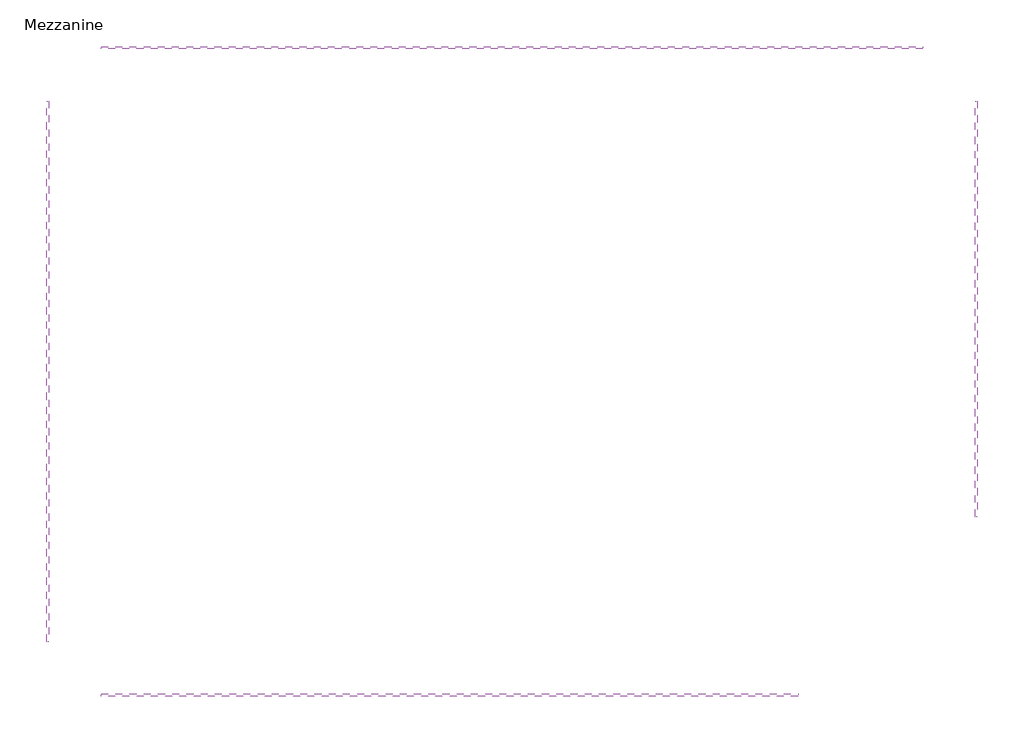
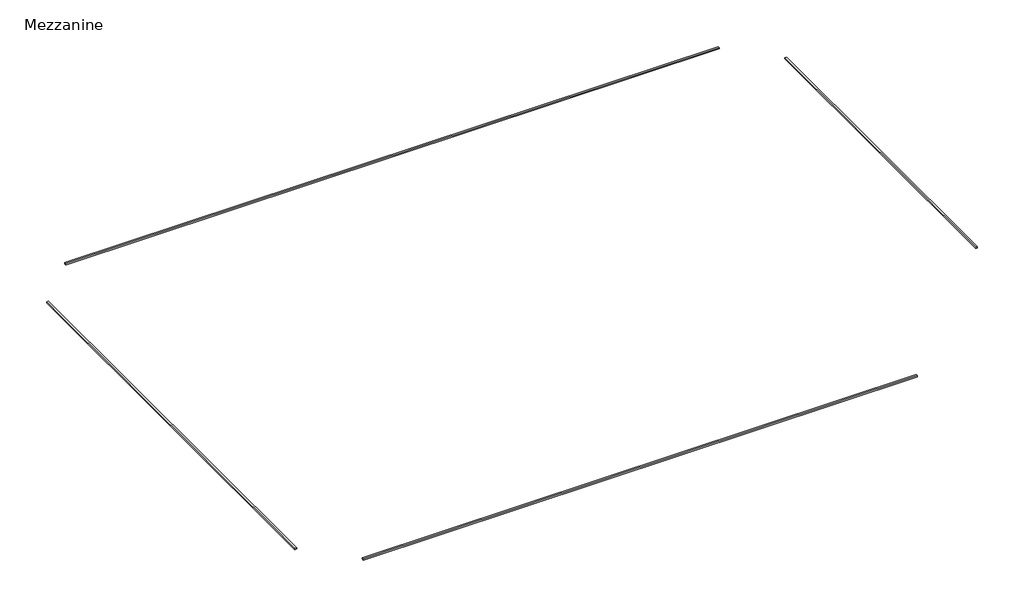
# One storey: 4 proxies.
"""IFC4 building model written with IfcOpenShell, lengths in millimetres."""

import ifcopenshell
import ifcopenshell.guid

model = None  # the IFC model being written
_history = None  # IfcOwnerHistory: only IFC2X3 demands one
_inside = {}  # id of a spatial element -> (the spatial element, [elements in it])
_under = {}  # id of a project, library or spatial element -> (it, [spatial elements below it])
_declared = {}  # id of a project -> (the project, [libraries it declares])
_typed = {}  # id of a type object -> (the type object, [elements of that type])
_made_of = {}  # id of a material, layer set ... -> (it, [elements and type objects made of it])


def new_model(schema):
    """Start an empty IFC model of exactly this schema.

    Asked for "IFC4X3", IfcOpenShell would pick the latest addendum, in which some entities
    have other attributes; the version numbers below select the first issue.
    IFC2X3 requires an IfcOwnerHistory on every rooted entity: one is made here for all.
    """
    global model, _history
    if schema == "IFC4X3":
        model = ifcopenshell.file(schema_version=(4, 3, 0, 0))
    else:
        model = ifcopenshell.file(schema=schema)
    _inside.clear()
    _under.clear()
    _declared.clear()
    _typed.clear()
    _made_of.clear()
    _history = None
    if model.schema == "IFC2X3":
        org = make("IfcOrganization", Name="unknown")
        user = make(
            "IfcPersonAndOrganization",
            ThePerson=make("IfcPerson", FamilyName="unknown"),
            TheOrganization=org,
        )
        app = make(
            "IfcApplication",
            ApplicationDeveloper=org,
            Version="unknown",
            ApplicationFullName="unknown",
            ApplicationIdentifier="unknown",
        )
        _history = make(
            "IfcOwnerHistory",
            OwningUser=user,
            OwningApplication=app,
            ChangeAction="ADDED",
            CreationDate=0,
        )
    return model


def make(cls, **values):
    """One entity of the class cls with the attributes given. An attribute that is None is left unset."""
    return model.create_entity(
        cls, **{name: value for name, value in values.items() if value is not None}
    )


def rooted(cls, **values):
    """An entity with a GlobalId (a new one), such as an element, a storey or a relation."""
    return make(cls, GlobalId=ifcopenshell.guid.new(), OwnerHistory=_history, **values)


def si_unit(unit_type, name, prefix=None):
    """IfcSIUnit, for example si_unit("LENGTHUNIT", "METRE", prefix="MILLI")."""
    return make("IfcSIUnit", UnitType=unit_type, Prefix=prefix, Name=name)


def assignment(units):
    """IfcUnitAssignment: the units of a project."""
    return None if units is None else make("IfcUnitAssignment", Units=units)


def point(xyz):
    """IfcCartesianPoint."""
    return None if xyz is None else make("IfcCartesianPoint", Coordinates=xyz)


def direction(xyz):
    """IfcDirection."""
    return None if xyz is None else make("IfcDirection", DirectionRatios=xyz)


def frame(location, z_axis=None, x_axis=None):
    """IfcAxis2Placement3D, a coordinate frame: its origin and axes. An axis left out is left unset."""
    return make(
        "IfcAxis2Placement3D",
        Location=point(location),
        Axis=direction(z_axis),
        RefDirection=direction(x_axis),
    )


def origin():
    """The frame at (0, 0, 0) with its axes left unset."""
    return frame((0.0, 0.0, 0.0))


def place(relative_to, where):
    """IfcLocalPlacement: puts the frame where relative to a parent placement (None: the world)."""
    return make(
        "IfcLocalPlacement", PlacementRelTo=relative_to, RelativePlacement=where
    )


def context(
    kind, dimensions, precision=None, world=None, true_north=None, identifier=None
):
    """IfcGeometricRepresentationContext, for example the 3D "Model" context."""
    return make(
        "IfcGeometricRepresentationContext",
        ContextIdentifier=identifier,
        ContextType=kind,
        CoordinateSpaceDimension=dimensions,
        Precision=precision,
        WorldCoordinateSystem=world,
        TrueNorth=true_north,
    )


def project(units=None, contexts=None):
    """IfcProject with its units and contexts."""
    return rooted(
        "IfcProject",
        Name="project",
        RepresentationContexts=contexts,
        UnitsInContext=assignment(units),
    )


def spatial(cls, under=None, at=None, **own):
    """A site, building, storey or space (cls), placed at a placement, below another one or the project."""
    s = rooted(cls, ObjectPlacement=at, **own)
    if under is not None:
        _under.setdefault(under.id(), (under, []))[1].append(s)
    return s


def polyline(points):
    """IfcPolyline through the points."""
    return make("IfcPolyline", Points=[point(p) for p in points])


def outline(outer, holes=None, kind="AREA"):
    """IfcArbitraryClosedProfileDef: a profile drawn as a closed curve; with holes, ...WithVoids."""
    if holes is None:
        return make("IfcArbitraryClosedProfileDef", ProfileType=kind, OuterCurve=outer)
    return make(
        "IfcArbitraryProfileDefWithVoids",
        ProfileType=kind,
        OuterCurve=outer,
        InnerCurves=holes,
    )


def extrude(swept, where, along, depth):
    """IfcExtrudedAreaSolid: the profile swept, set in the frame where, extruded along a direction by depth."""
    return make(
        "IfcExtrudedAreaSolid",
        SweptArea=swept,
        Position=where,
        ExtrudedDirection=direction(along),
        Depth=depth,
    )


def shape(context_of_items, identifier, shape_type, items):
    """IfcShapeRepresentation: the items that make up one representation, for example the "Body"."""
    return make(
        "IfcShapeRepresentation",
        ContextOfItems=context_of_items,
        RepresentationIdentifier=identifier,
        RepresentationType=shape_type,
        Items=items,
    )


def made_of(thing, what):
    """Note that an element or type object is made of a material, layer set ...; save() writes the relation."""
    if what is not None:
        _made_of.setdefault(what.id(), (what, []))[1].append(thing)
    return thing


def element(
    cls,
    number,
    at=None,
    inside=None,
    cuts=None,
    type_object=None,
    material=None,
    context=None,
    identifier="Body",
    shape_type=None,
    held_by="IfcProductDefinitionShape",
    body=None,
    shapes=None,
    **own,
):
    """One element of the class cls, such as IfcWall. Its Tag is "e" and its number.

    at: its placement. inside: the storey or other place that contains it. cuts: it is an
    opening in that element (IfcRelVoidsElement). A single representation is given by context,
    identifier, shape_type and body (its items); several are given by shapes. held_by: the class
    of the entity that holds the representations. save() writes the other relations.
    """
    e = rooted(cls, Tag="e%d" % number, ObjectPlacement=at, **own)
    if body is not None:
        shapes = [shape(context, identifier, shape_type, body)]
    if shapes is not None:
        e.Representation = make(held_by, Representations=shapes)
    if inside is not None:
        _inside.setdefault(inside.id(), (inside, []))[1].append(e)
    if cuts is not None:
        rooted(
            "IfcRelVoidsElement", RelatingBuildingElement=cuts, RelatedOpeningElement=e
        )
    if type_object is not None:
        _typed.setdefault(type_object.id(), (type_object, []))[1].append(e)
    return made_of(e, material)


def aggregate(whole, parts):
    """IfcRelAggregates: a whole, such as a stair, and the parts it consists of."""
    return rooted("IfcRelAggregates", RelatingObject=whole, RelatedObjects=parts)


def save(model, path):
    """Write the relations noted so far, then the file.

    IfcRelAggregates (storeys below a building ...), IfcRelContainedInSpatialStructure (elements
    in a storey), IfcRelDefinesByType, IfcRelAssociatesMaterial and IfcRelDeclares: one each for
    every whole, place, type object, material and project.
    """
    for whole, parts in _under.values():
        aggregate(whole, parts)
    for where, things in _inside.values():
        rooted(
            "IfcRelContainedInSpatialStructure",
            RelatedElements=things,
            RelatingStructure=where,
        )
    for kind, things in _typed.values():
        rooted("IfcRelDefinesByType", RelatedObjects=things, RelatingType=kind)
    for what, things in _made_of.values():
        rooted("IfcRelAssociatesMaterial", RelatedObjects=things, RelatingMaterial=what)
    for by, libraries in _declared.values():
        rooted("IfcRelDeclares", RelatingContext=by, RelatedDefinitions=libraries)
    model.write(path)


model = new_model("IFC4")

# Units and contexts
model_context = context("Model", 3, world=origin())
ifc_project = project(units=[si_unit("LENGTHUNIT", "METRE", prefix="MILLI")], contexts=[model_context])

# Site, building, storey
site = spatial("IfcSite", under=ifc_project)
building = spatial("IfcBuilding", under=site)
storey = spatial("IfcBuildingStorey", under=building, Name="Mezzanine", Elevation=3500.0)

# Proxies
placement = place(None, origin())
element("IfcBuildingElementProxy", 1, Name="Reveals", at=placement, inside=storey, context=model_context, shape_type="SweptSolid", body=[
    extrude(outline(polyline([(10855.5272279, -14331.9313057), (10855.5272279, -14434.4313057), (-20031.4727721, -14434.4313057), (-20031.4727721, -14331.9313057), (10855.5272279, -14331.9313057)])), frame((0.0, 0.0, 7200.0), z_axis=(0.0, 0.0, 1.0), x_axis=(1.0, 0.0, 0.0)), (0.0, 0.0, 1.0), 75.0),
])
element("IfcBuildingElementProxy", 2, Name="Reveals", at=placement, inside=storey, context=model_context, shape_type="SweptSolid", body=[
    extrude(outline(polyline([(-22344.4727721, -12018.7313057), (-22446.9727721, -12018.7313057), (-22446.9727721, 11955.0686943), (-22344.4727721, 11955.0686943), (-22344.4727721, -12018.7313057)])), frame((0.0, 0.0, 7200.0), z_axis=(0.0, 0.0, 1.0), x_axis=(1.0, 0.0, 0.0)), (0.0, 0.0, 1.0), 75.0),
])
element("IfcBuildingElementProxy", 3, Name="Reveals", at=placement, inside=storey, context=model_context, shape_type="SweptSolid", body=[
    extrude(outline(polyline([(-20031.4727721, 14268.0686943), (-20031.4727721, 14370.5686943), (16392.5272279, 14370.5686943), (16392.5272279, 14268.0686943), (-20031.4727721, 14268.0686943)])), frame((0.0, 0.0, 7200.0), z_axis=(0.0, 0.0, 1.0), x_axis=(1.0, 0.0, 0.0)), (0.0, 0.0, 1.0), 75.0),
])
element("IfcBuildingElementProxy", 4, Name="Reveals", at=placement, inside=storey, context=model_context, shape_type="SweptSolid", body=[
    extrude(outline(polyline([(18705.5272279, 11955.0686943), (18808.0272279, 11955.0686943), (18808.0272279, -6481.9313057), (18705.5272279, -6481.9313057), (18705.5272279, 11955.0686943)])), frame((0.0, 0.0, 7200.0), z_axis=(0.0, 0.0, 1.0), x_axis=(1.0, 0.0, 0.0)), (0.0, 0.0, 1.0), 75.0),
])

save(model, "model.ifc")
